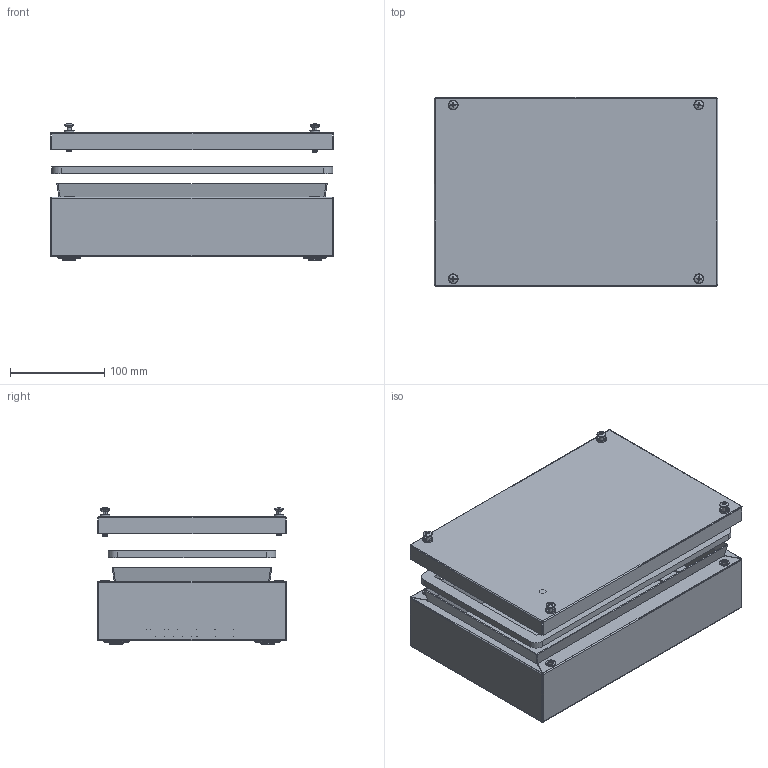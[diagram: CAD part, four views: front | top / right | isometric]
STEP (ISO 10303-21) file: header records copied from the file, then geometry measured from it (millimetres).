
FILE_DESCRIPTION (( 'STEP AP203' ), '1' );
FILE_NAME ('SS 300 x 200 x 81-ASSEMBLY.STEP', '2020-03-13T10:37:04', ( '' ), ( '' ), 'SwSTEP 2.0', 'SolidWorks 2018', '' );
FILE_SCHEMA (( 'CONFIG_CONTROL_DESIGN' ));
Length unit declared in the file: millimetre
Products named in the file (12): SS 300 x 200 x 81-LID; S.S. NUT SERT M5; M5 BOLT; Plastic Insert; SS 300 x 200 x 81-ASSEMBLY; VMQ Silicon Gasket; SS 300 x 200 x 81-BASE; SS 300 x 200 x 81- LID Assembly; SS 300 x 200 x 81-BASE Assembly; Dinral Mouting channel; PLASTIC BUSH 300_F_5_1; S.S.Stud
Assembly tree (24 placements, depth 3):
  SS 300 x 200 x 81-ASSEMBLY
    SS 300 x 200 x 81-BASE Assembly
      S.S. NUT SERT M5  x4
      SS 300 x 200 x 81-BASE
      Dinral Mouting channel  x2
    SS 300 x 200 x 81- LID Assembly
      S.S.Stud
      VMQ Silicon Gasket
      Plastic Insert  x4
      M5 BOLT  x4
    PLASTIC BUSH 300_F_5_1  x4
    SS 300 x 200 x 81-LID
Bounding box: 300 x 200 x 144.67 mm (x, y, z)
Volume: 376025 mm3; surface area: 520310.6 mm2
Topology: 22 solids, 22 shells, 904 faces, 2107 edges, 1293 vertices
Faces by surface type: cylinder 330, plane 322, bspline 130, cone 114, sphere 8
Entity records: 20474 total; most frequent: CARTESIAN_POINT 7053, ORIENTED_EDGE 2454, DIRECTION 2439, EDGE_CURVE 1227, AXIS2_PLACEMENT_3D 877, VERTEX_POINT 737, LINE 685, VECTOR 685
